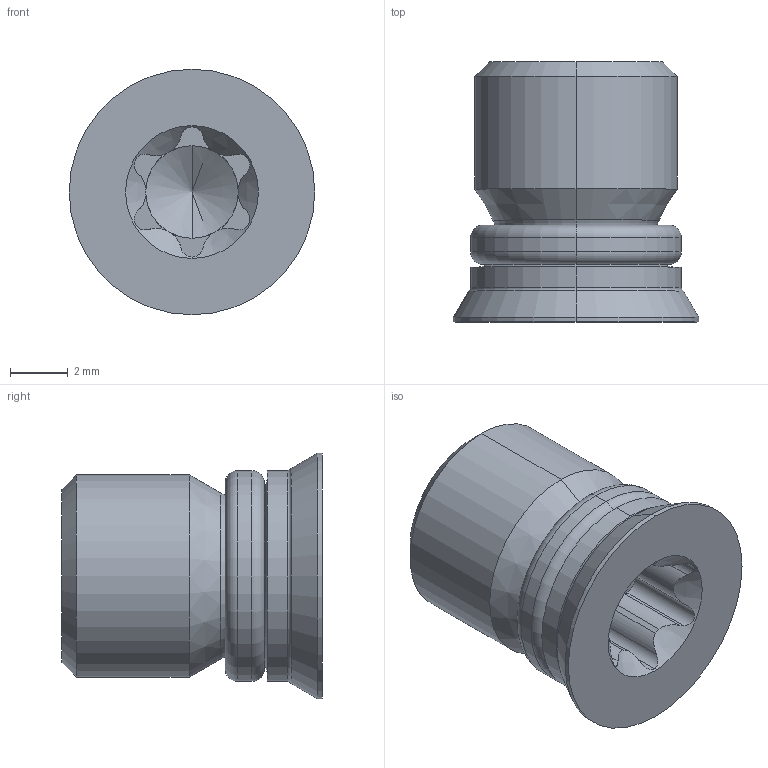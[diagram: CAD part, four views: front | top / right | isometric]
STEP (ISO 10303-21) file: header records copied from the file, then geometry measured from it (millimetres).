
FILE_DESCRIPTION (( 'STEP AP214' ), '1' );
FILE_NAME ('IPSM7-001.STEP', '2022-09-26T10:39:42', ( '' ), ( '' ), 'SwSTEP 2.0', 'SolidWorks 2014', '' );
FILE_SCHEMA (( 'AUTOMOTIVE_DESIGN' ));
Length unit declared in the file: millimetre
Products named in the file (1): IPSM7-001
Bounding box: 8.5 x 9 x 8.5 mm (x, y, z)
Volume: 306.8 mm3; surface area: 411.6 mm2
Topology: 1 solids, 1 shells, 65 faces, 160 edges, 97 vertices
Faces by surface type: cylinder 36, cone 10, torus 10, plane 9
Entity records: 2044 total; most frequent: CARTESIAN_POINT 443, DIRECTION 348, ORIENTED_EDGE 316, EDGE_CURVE 158, AXIS2_PLACEMENT_3D 148, VERTEX_POINT 97, CIRCLE 82, EDGE_LOOP 67
